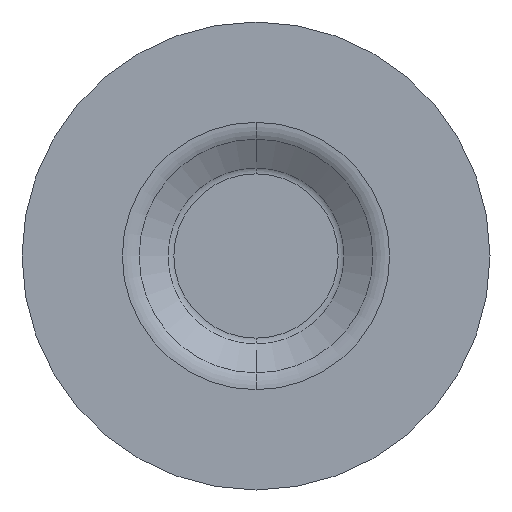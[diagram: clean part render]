
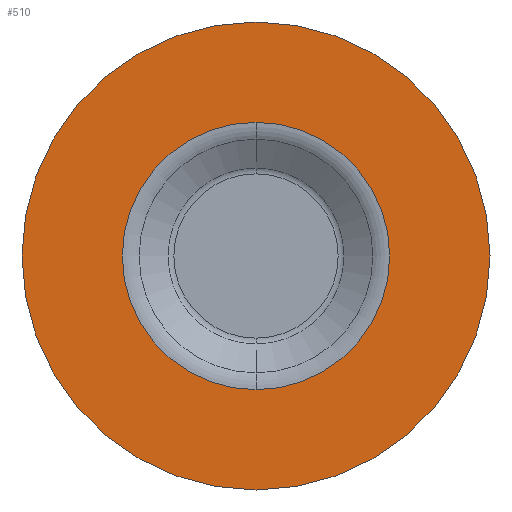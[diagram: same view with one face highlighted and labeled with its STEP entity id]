
A CAD part, front view. The second image highlights one B-rep face of the part: STEP entity #510.
In plain terms, the highlighted planar face has unit normal (0, -1, 0).
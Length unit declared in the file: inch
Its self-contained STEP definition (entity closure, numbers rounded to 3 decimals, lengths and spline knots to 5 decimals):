
#15 = EDGE_LOOP ( 'NONE', ( #530, #28 ) ) ;
#28 = ORIENTED_EDGE ( 'NONE', *, *, #261, .F. ) ;
#44 = CIRCLE ( 'NONE', #251, 0.625 ) ;
#47 = FACE_OUTER_BOUND ( 'NONE', #15, .T. ) ;
#76 = DIRECTION ( 'NONE',  ( 0., 0., 1. ) ) ;
#85 = EDGE_CURVE ( 'NONE', #252, #471, #44, .T. ) ;
#130 = AXIS2_PLACEMENT_3D ( 'NONE', #514, #134, #303 ) ;
#131 = CIRCLE ( 'NONE', #130, 0.625 ) ;
#132 = VERTEX_POINT ( 'NONE', #316 ) ;
#134 = DIRECTION ( 'NONE',  ( 0., 1., 0. ) ) ;
#153 = DIRECTION ( 'NONE',  ( 0., -1., 0. ) ) ;
#166 = FACE_BOUND ( 'NONE', #215, .T. ) ;
#189 = CARTESIAN_POINT ( 'NONE',  ( 0., -0.06, 0.625 ) ) ;
#200 = CARTESIAN_POINT ( 'NONE',  ( 0., -0.06, 0. ) ) ;
#211 = AXIS2_PLACEMENT_3D ( 'NONE', #427, #213, #333 ) ;
#213 = DIRECTION ( 'NONE',  ( 0., 1., 0. ) ) ;
#215 = EDGE_LOOP ( 'NONE', ( #527, #304 ) ) ;
#248 = DIRECTION ( 'NONE',  ( 0., 0., 1. ) ) ;
#251 = AXIS2_PLACEMENT_3D ( 'NONE', #332, #364, #248 ) ;
#252 = VERTEX_POINT ( 'NONE', #189 ) ;
#261 = EDGE_CURVE ( 'NONE', #471, #252, #131, .T. ) ;
#283 = DIRECTION ( 'NONE',  ( 0., -1., 0. ) ) ;
#298 = CIRCLE ( 'NONE', #455, 0.35711 ) ;
#299 = PLANE ( 'NONE',  #211 ) ;
#303 = DIRECTION ( 'NONE',  ( 0., 0., 1. ) ) ;
#304 = ORIENTED_EDGE ( 'NONE', *, *, #420, .F. ) ;
#316 = CARTESIAN_POINT ( 'NONE',  ( 0., -0.06, 0.35711 ) ) ;
#323 = CARTESIAN_POINT ( 'NONE',  ( 0., -0.06, -0.35711 ) ) ;
#332 = CARTESIAN_POINT ( 'NONE',  ( 0., -0.06, 0. ) ) ;
#333 = DIRECTION ( 'NONE',  ( 0., 0., 1. ) ) ;
#351 = AXIS2_PLACEMENT_3D ( 'NONE', #200, #283, #412 ) ;
#364 = DIRECTION ( 'NONE',  ( 0., 1., 0. ) ) ;
#376 = EDGE_CURVE ( 'NONE', #132, #408, #496, .T. ) ;
#408 = VERTEX_POINT ( 'NONE', #323 ) ;
#412 = DIRECTION ( 'NONE',  ( 0., 0., 1. ) ) ;
#420 = EDGE_CURVE ( 'NONE', #408, #132, #298, .T. ) ;
#427 = CARTESIAN_POINT ( 'NONE',  ( -0.625, -0.06, 0. ) ) ;
#455 = AXIS2_PLACEMENT_3D ( 'NONE', #490, #153, #76 ) ;
#471 = VERTEX_POINT ( 'NONE', #502 ) ;
#490 = CARTESIAN_POINT ( 'NONE',  ( 0., -0.06, 0. ) ) ;
#496 = CIRCLE ( 'NONE', #351, 0.35711 ) ;
#502 = CARTESIAN_POINT ( 'NONE',  ( 0., -0.06, -0.625 ) ) ;
#510 = ADVANCED_FACE ( 'NONE', ( #166, #47 ), #299, .F. ) ;
#514 = CARTESIAN_POINT ( 'NONE',  ( 0., -0.06, 0. ) ) ;
#527 = ORIENTED_EDGE ( 'NONE', *, *, #376, .F. ) ;
#530 = ORIENTED_EDGE ( 'NONE', *, *, #85, .F. ) ;
